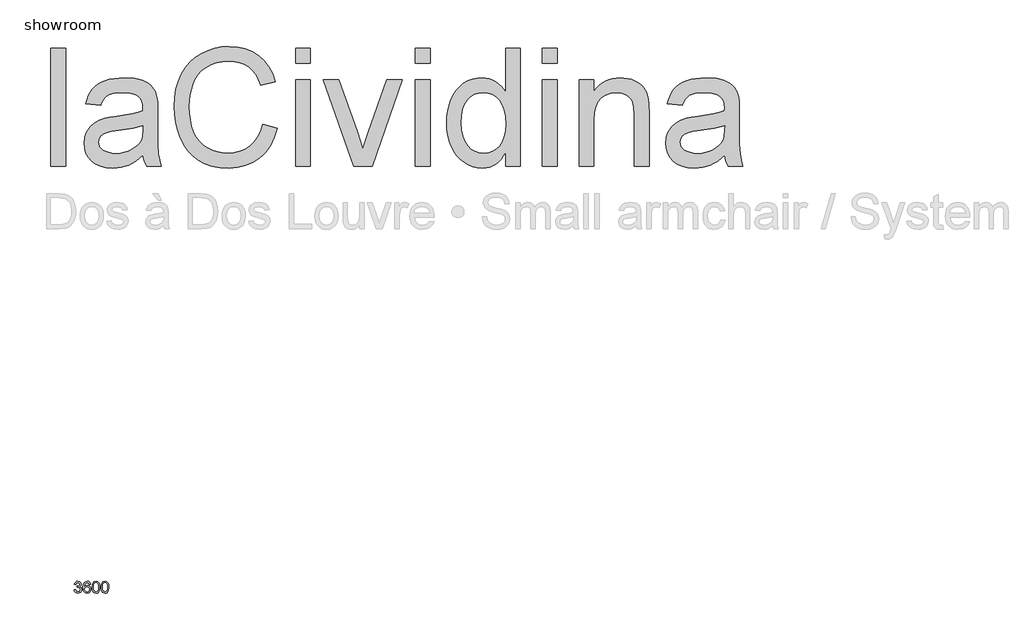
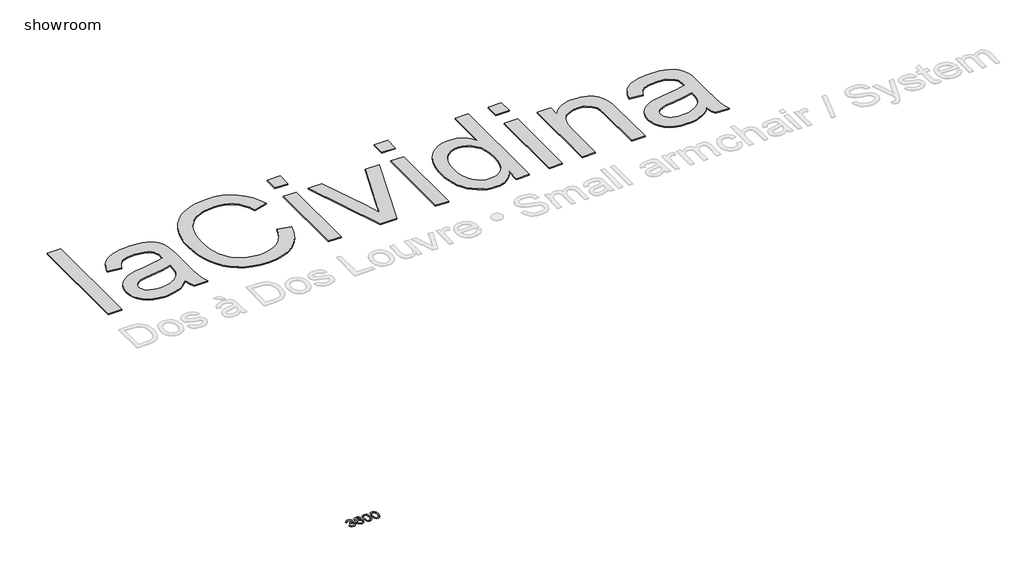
# One storey, part 1 of 2: 2 proxies.
"""IFC4 building model written with IfcOpenShell, lengths in millimetres."""

from ifc_helpers import new_model, si_unit, origin, origin_with_axes, place, context, project, spatial, polyline, outline, extrude, element, save

model = new_model("IFC4")

# Units and contexts
model_context = context("Model", 3, world=origin())
ifc_project = project(units=[si_unit("LENGTHUNIT", "METRE", prefix="MILLI")], contexts=[model_context])

# Site, building, storey
site = spatial("IfcSite", under=ifc_project)
building = spatial("IfcBuilding", under=site)
storey = spatial("IfcBuildingStorey", under=building, Name="showroom", Elevation=0.0)

# Proxies
placement = place(None, origin())
element("IfcBuildingElementProxy", 1, Name="1000mm Arial", ObjectType="1000mm Arial", at=placement, inside=storey, context=model_context, shape_type="SweptSolid", body=[
    extrude(outline(polyline([(-1952.8965336, 4695.1020807), (-1952.8965336, 5699.6651822), (-1827.326146, 5699.6651822), (-1827.326146, 4695.1020807), (-1952.8965336, 4695.1020807)])), origin_with_axes(), (0.0, 0.0, 1.0), 10.0),
    extrude(outline(polyline([(-1168.0816106, 4789.2798714), (-1197.8570596, 4761.3361682), (-1228.0770326, 4737.8377058), (-1258.7415298, 4718.7844841), (-1289.850551, 4704.1765032), (-1321.7566499, 4693.3393128), (-1354.81238, 4685.5984625), (-1389.0177413, 4680.9539523), (-1424.3727339, 4679.4057822), (-1480.283133, 4683.1305874), (-1529.311073, 4694.305003), (-1571.4565541, 4712.929029), (-1606.7195762, 4739.0026654), (-1634.5636447, 4770.8704433), (-1654.4522651, 4806.8768935), (-1666.3854373, 4847.0220163), (-1670.3631613, 4891.3058114), (-1664.3544221, 4943.3611138), (-1656.843498, 4967.5953402), (-1646.3282043, 4990.6339501), (-1618.5224569, 5031.1009696), (-1583.1751285, 5062.7388212), (-1541.6351199, 5086.6511509), (-1495.2513316, 5103.9416046), (-1450.0631599, 5113.5678502), (-1386.6035157, 5122.8262137), (-1258.2126994, 5142.6918415), (-1208.6406006, 5153.9122423), (-1168.8173746, 5165.9910345), (-1168.0816106, 5193.9500661), (-1170.2429173, 5224.3923012), (-1176.7268375, 5249.9907567), (-1187.5333711, 5270.7454326), (-1202.6625181, 5286.6563289), (-1228.8127966, 5302.5365684), (-1260.665246, 5313.8795966), (-1298.2198664, 5320.6854135), (-1341.4766577, 5322.9540191), (-1381.6984225, 5321.4441701), (-1416.27933, 5316.914623), (-1445.2193803, 5309.3653779), (-1468.5185733, 5298.7964348), (-1487.6637655, 5284.3800591), (-1504.1418132, 5265.2885164), (-1517.9527164, 5241.5218066), (-1529.0964752, 5213.0799299), (-1654.6668629, 5228.7762283), (-1645.1095952, 5264.9512912), (-1632.8698547, 5297.4475341), (-1617.9476412, 5326.2649571), (-1600.3429549, 5351.4035601), (-1579.2970391, 5373.3691809), (-1554.0511372, 5392.6676572), (-1524.6052492, 5409.2989891), (-1490.959375, 5423.2631765), (-1453.7956293, 5434.3149647), (-1413.7961265, 5442.2090992), (-1370.9608667, 5446.9455799), (-1325.2898499, 5448.5244068), (-1240.4010795, 5442.9448632), (-1204.5555776, 5435.9704337), (-1173.1093312, 5426.2062324), (-1122.3722727, 5401.0369726), (-1102.8208775, 5386.3140286), (-1087.1475717, 5370.1655418), (-1063.787065, 5331.9977848), (-1048.6425895, 5284.9395463), (-1044.0440646, 5241.5294708), (-1042.5112229, 5175.065457), (-1042.5112229, 5018.8382364), (-1040.9170676, 4882.752555), (-1036.1346017, 4800.6842133), (-1026.6922971, 4746.7588442), (-1011.118626, 4695.1020807), (-1136.6890137, 4695.1020807), (-1156.7998961, 4738.7574108), (-1168.0816106, 4789.2798714)]), holes=[polyline([(-1168.0816106, 5040.4206468), (-1252.4492148, 5019.5126868), (-1370.6619626, 5001.9156646), (-1435.8077326, 4992.2894191), (-1478.6966419, 4981.5595276), (-1506.8089577, 4967.6413254), (-1527.6249472, 4948.450148), (-1540.500817, 4925.4575233), (-1544.7927737, 4900.1349793), (-1542.4551901, 4880.6219052), (-1535.4424396, 4862.7949568), (-1523.7545221, 4846.6541343), (-1507.3914375, 4832.1994375), (-1486.50647, 4820.2892579), (-1461.2529039, 4811.7819868), (-1431.6307391, 4806.6776241), (-1397.6399756, 4804.9761699), (-1362.9364407, 4806.8539009), (-1330.1949431, 4812.487094), (-1299.4154829, 4821.8757491), (-1270.5980599, 4835.0198662), (-1244.6010656, 4850.8311278), (-1222.2828912, 4868.2212162), (-1203.6435368, 4887.1901316), (-1188.6830023, 4907.7378739), (-1179.9917902, 4926.1319736), (-1173.7837815, 4948.450148), (-1168.8173746, 5004.8587206), (-1168.0816106, 5040.4206468)])]), origin_with_axes(), (0.0, 0.0, 1.0), 10.0),
    extrude(outline(polyline([(-147.8222106, 5052.1928707), (-22.2518229, 5019.8192551), (-47.099186, 4941.7286374), (-80.1932372, 4873.4941915), (-121.5339764, 4815.1159174), (-145.296854, 4789.6228448), (-171.1214037, 4766.5938151), (-227.8365446, 4728.4490507), (-290.5604248, 4701.2027904), (-359.2930442, 4684.8550343), (-434.0344029, 4679.4057822), (-510.6075073, 4683.5291262), (-579.6850161, 4695.8991583), (-641.2669293, 4716.5158785), (-695.3532468, 4745.3792867), (-742.6873968, 4782.0601873), (-784.0128076, 4826.1293846), (-819.3294792, 4877.5868787), (-848.6374114, 4936.4326695), (-871.6530288, 5000.1222399), (-888.0927554, 5066.1110728), (-897.9565914, 5134.3991682), (-901.2445368, 5204.986526), (-897.5273958, 5280.7242317), (-886.3759728, 5351.4648737), (-867.7902678, 5417.208452), (-841.7702809, 5477.9549664), (-808.8984918, 5532.7004058), (-769.7573803, 5580.4407589), (-724.3469465, 5621.1760257), (-672.6671904, 5654.9062061), (-616.4732157, 5681.3553887), (-557.5201259, 5700.247662), (-495.8079212, 5711.583026), (-431.3366016, 5715.3614806), (-359.5153062, 5710.4717158), (-293.6567649, 5695.8024212), (-233.7609776, 5671.353597), (-179.8279442, 5637.125243), (-132.746713, 5594.0217359), (-93.4063322, 5542.9474522), (-61.8068016, 5483.902392), (-37.9481214, 5416.8865552), (-163.5185091, 5386.9654863), (-183.2921663, 5436.3459799), (-207.0512119, 5478.5374462), (-234.7956457, 5513.5398852), (-266.5254677, 5541.3532969), (-302.4246191, 5562.5448327), (-342.6770407, 5577.6816439), (-387.2827327, 5586.7637307), (-436.2416949, 5589.7910929), (-492.5736254, 5586.4341697), (-544.0924331, 5576.3634001), (-590.7981181, 5559.5787841), (-632.6906803, 5536.0803216), (-669.2412893, 5506.9256735), (-699.9211149, 5473.1725005), (-724.7301569, 5434.8208025), (-743.6684155, 5391.8705795), (-757.6709239, 5346.2685406), (-767.6727157, 5299.9613944), (-773.6737907, 5252.9491411), (-775.6741491, 5205.2317807), (-773.3059087, 5145.2670154), (-766.2011877, 5089.2263248), (-754.359986, 5037.1097089), (-737.7823036, 4988.9171675), (-716.1998932, 4945.6067268), (-689.3445075, 4908.1364127), (-657.2161466, 4876.5062253), (-619.8148104, 4850.7161646), (-578.9569164, 4830.7049169), (-536.4588817, 4816.4111686), (-492.3207065, 4807.8349196), (-446.5423907, 4804.9761699), (-391.9502355, 4808.8695877), (-341.7266789, 4820.549841), (-295.8717211, 4840.0169299), (-254.3853619, 4867.2708544), (-218.2486201, 4902.1889871), (-188.4425143, 4944.6487007), (-164.9670445, 4994.6499952), (-147.8222106, 5052.1928707)])), origin_with_axes(), (0.0, 0.0, 1.0), 10.0),
    extrude(outline(polyline([(134.7111617, 4695.1020807), (134.7111617, 5432.8281083), (260.2815493, 5432.8281083), (260.2815493, 4695.1020807), (134.7111617, 4695.1020807)])), origin_with_axes(), (0.0, 0.0, 1.0), 10.0),
    extrude(outline(polyline([(134.7111617, 5574.0947945), (134.7111617, 5699.6651822), (260.2815493, 5699.6651822), (260.2815493, 5574.0947945), (134.7111617, 5574.0947945)])), origin_with_axes(), (0.0, 0.0, 1.0), 10.0),
    extrude(outline(polyline([(629.6350725, 4695.1020807), (370.1556386, 5432.8281083), (503.0836662, 5432.8281083), (660.2919054, 4990.8792048), (707.6260555, 4842.2548787), (753.9791869, 4982.5405462), (912.1684448, 5432.8281083), (1045.0964724, 5432.8281083), (788.8053491, 4695.1020807), (629.6350725, 4695.1020807)])), origin_with_axes(), (0.0, 0.0, 1.0), 10.0),
    extrude(outline(polyline([(1154.9705616, 4695.1020807), (1154.9705616, 5432.8281083), (1280.5409493, 5432.8281083), (1280.5409493, 4695.1020807), (1154.9705616, 4695.1020807)])), origin_with_axes(), (0.0, 0.0, 1.0), 10.0),
    extrude(outline(polyline([(1154.9705616, 5574.0947945), (1154.9705616, 5699.6651822), (1280.5409493, 5699.6651822), (1280.5409493, 5574.0947945), (1154.9705616, 5574.0947945)])), origin_with_axes(), (0.0, 0.0, 1.0), 10.0),
    extrude(outline(polyline([(1924.0891862, 4695.1020807), (1924.0891862, 4813.5600831), (1906.2967268, 4782.1176688), (1886.5192374, 4754.8675765), (1864.7567182, 4731.809806), (1841.009169, 4712.9443574), (1815.2765898, 4698.2712308), (1787.5589807, 4687.790426), (1757.8563417, 4681.5019432), (1726.1686728, 4679.4057822), (1684.7206347, 4682.4408087), (1644.9893792, 4691.5458881), (1606.9749064, 4706.7210204), (1570.6772162, 4727.9662056), (1537.2306114, 4754.6453144), (1507.769395, 4786.1222176), (1482.2935668, 4822.3969152), (1460.8031269, 4863.4694071), (1443.7425994, 4908.5579442), (1431.5565083, 4956.8807771), (1424.2448537, 5008.4379059), (1421.8076355, 5063.2293305), (1424.0532485, 5117.0167439), (1430.7900875, 5168.2596401), (1442.0181526, 5216.9580192), (1457.7374436, 5263.1118812), (1477.9402965, 5305.3723254), (1502.6190471, 5342.3904512), (1531.7736952, 5374.1662585), (1565.4042409, 5400.6997474), (1602.322732, 5421.6230359), (1641.3412161, 5436.568242), (1682.4596932, 5445.5353656), (1725.6781635, 5448.5244068), (1757.2853582, 5446.3860927), (1787.1144567, 5439.9711504), (1815.1654588, 5429.2795799), (1841.4383646, 5414.3113812), (1865.6419342, 5395.9249457), (1887.4849277, 5374.9786646), (1906.967345, 5351.4725379), (1924.0891862, 5325.4065657), (1924.0891862, 5699.6651822), (2049.6595739, 5699.6651822), (2049.6595739, 4695.1020807), (1924.0891862, 4695.1020807)]), holes=[polyline([(1547.3780231, 5063.7198398), (1550.9188873, 5002.8277054), (1561.54148, 4950.1362738), (1579.245801, 4905.645545), (1604.0318504, 4869.3555191), (1633.6310226, 4841.1895538), (1665.7747119, 4821.0710072), (1700.4629184, 4808.9998792), (1737.695642, 4804.9761699), (1775.1046424, 4808.8159382), (1809.5859152, 4820.3352432), (1841.1394605, 4839.5340848), (1869.7652782, 4866.4124631), (1893.531988, 4901.1849758), (1910.5082092, 4944.0662209), (1920.693942, 4995.0561983), (1924.0891862, 5054.154908), (1920.6326283, 5118.9481244), (1910.2629545, 5174.5136341), (1892.980165, 5220.851437), (1868.7842596, 5257.9615333), (1839.5299768, 5286.3957458), (1807.0720549, 5306.7058977), (1771.410494, 5318.8919887), (1732.545294, 5322.9540191), (1694.5768065, 5319.0529371), (1659.8886, 5307.3496911), (1628.4806747, 5287.8442812), (1600.3530304, 5260.5367073), (1577.1764647, 5224.8291611), (1560.621775, 5180.1238345), (1550.6889611, 5126.4207274), (1547.3780231, 5063.7198398)])]), origin_with_axes(), (0.0, 0.0, 1.0), 10.0),
    extrude(outline(polyline([(2238.0151554, 4695.1020807), (2238.0151554, 5432.8281083), (2363.5855431, 5432.8281083), (2363.5855431, 4695.1020807), (2238.0151554, 4695.1020807)])), origin_with_axes(), (0.0, 0.0, 1.0), 10.0),
    extrude(outline(polyline([(2238.0151554, 5574.0947945), (2238.0151554, 5699.6651822), (2363.5855431, 5699.6651822), (2363.5855431, 5574.0947945), (2238.0151554, 5574.0947945)])), origin_with_axes(), (0.0, 0.0, 1.0), 10.0),
    extrude(outline(polyline([(2551.9411246, 4695.1020807), (2551.9411246, 5432.8281083), (2677.5115123, 5432.8281083), (2677.5115123, 5329.8211497), (2698.2278672, 5357.6422256), (2721.1361856, 5381.7538247), (2746.2364675, 5402.155947), (2773.5287131, 5418.8485925), (2803.0129221, 5431.8317613), (2834.6890948, 5441.1054532), (2868.5572309, 5446.6696684), (2904.6173307, 5448.5244068), (2966.5134764, 5442.5463244), (2995.5071761, 5435.0737213), (3023.1979605, 5424.6120771), (3048.5358329, 5411.7208789), (3070.4707968, 5396.9596138), (3089.0028523, 5380.3282819), (3104.1319994, 5361.8268833), (3126.9713399, 5319.305856), (3141.7785902, 5269.4885025), (3146.7449972, 5221.8477841), (3148.4004661, 5148.0874441), (3148.4004661, 4695.1020807), (3022.8300785, 4695.1020807), (3022.8300785, 5131.1648723), (3019.2125722, 5196.0960444), (3008.3600533, 5242.2652348), (2999.7378191, 5259.7319654), (2988.3411414, 5275.3439576), (2974.1700204, 5289.1012113), (2957.224456, 5301.0037267), (2917.3399163, 5317.466446), (2871.0174418, 5322.9540191), (2832.8880058, 5319.8730074), (2797.4716996, 5310.6299723), (2764.7685231, 5295.2249137), (2734.7784762, 5273.6578318), (2709.7241795, 5243.4761797), (2691.8282533, 5202.227411), (2681.0906976, 5149.9115256), (2677.5115123, 5086.5285235), (2677.5115123, 4695.1020807), (2551.9411246, 4695.1020807)])), origin_with_axes(), (0.0, 0.0, 1.0), 10.0),
    extrude(outline(polyline([(3791.948703, 4789.2798714), (3762.1732541, 4761.3361682), (3731.953281, 4737.8377058), (3701.2887839, 4718.7844841), (3670.1797626, 4704.1765032), (3638.2736638, 4693.3393128), (3605.2179337, 4685.5984625), (3571.0125723, 4680.9539523), (3535.6575797, 4679.4057822), (3479.7471807, 4683.1305874), (3430.7192406, 4694.305003), (3388.5737595, 4712.929029), (3353.3107375, 4739.0026654), (3325.466669, 4770.8704433), (3305.5780486, 4806.8768935), (3293.6448764, 4847.0220163), (3289.6671523, 4891.3058114), (3295.6758915, 4943.3611138), (3303.1868156, 4967.5953402), (3313.7021093, 4990.6339501), (3341.5078568, 5031.1009696), (3376.8551852, 5062.7388212), (3418.3951938, 5086.6511509), (3464.778982, 5103.9416046), (3509.9671537, 5113.5678502), (3573.4267979, 5122.8262137), (3701.8176142, 5142.6918415), (3751.3897131, 5153.9122423), (3791.2129391, 5165.9910345), (3791.948703, 5193.9500661), (3789.7873963, 5224.3923012), (3783.3034762, 5249.9907567), (3772.4969425, 5270.7454326), (3757.3677955, 5286.6563289), (3731.217517, 5302.5365684), (3699.3650676, 5313.8795966), (3661.8104472, 5320.6854135), (3618.553656, 5322.9540191), (3578.3318912, 5321.4441701), (3543.7509836, 5316.914623), (3514.8109333, 5309.3653779), (3491.5117403, 5298.7964348), (3472.3665481, 5284.3800591), (3455.8885004, 5265.2885164), (3442.0775972, 5241.5218066), (3430.9338384, 5213.0799299), (3305.3634508, 5228.7762283), (3314.9207184, 5264.9512912), (3327.160459, 5297.4475341), (3342.0826724, 5326.2649571), (3359.6873587, 5351.4035601), (3380.7332745, 5373.3691809), (3405.9791764, 5392.6676572), (3435.4250645, 5409.2989891), (3469.0709386, 5423.2631765), (3506.2346843, 5434.3149647), (3546.2341871, 5442.2090992), (3589.0694469, 5446.9455799), (3634.7404638, 5448.5244068), (3719.6292342, 5442.9448632), (3755.4747361, 5435.9704337), (3786.9209824, 5426.2062324), (3837.6580409, 5401.0369726), (3857.2094361, 5386.3140286), (3872.882742, 5370.1655418), (3896.2432487, 5331.9977848), (3911.3877241, 5284.9395463), (3915.9862491, 5241.5294708), (3917.5190907, 5175.065457), (3917.5190907, 5018.8382364), (3919.113246, 4882.752555), (3923.895712, 4800.6842133), (3933.3380165, 4746.7588442), (3948.9116877, 4695.1020807), (3823.3413, 4695.1020807), (3803.2304176, 4738.7574108), (3791.948703, 4789.2798714)]), holes=[polyline([(3791.948703, 5040.4206468), (3707.5810988, 5019.5126868), (3589.368351, 5001.9156646), (3524.2225811, 4992.2894191), (3481.3336718, 4981.5595276), (3453.221356, 4967.6413254), (3432.4053664, 4948.450148), (3419.5294966, 4925.4575233), (3415.23754, 4900.1349793), (3417.5751235, 4880.6219052), (3424.587874, 4862.7949568), (3436.2757916, 4846.6541343), (3452.6388762, 4832.1994375), (3473.5238436, 4820.2892579), (3498.7774097, 4811.7819868), (3528.3995745, 4806.6776241), (3562.3903381, 4804.9761699), (3597.0938729, 4806.8539009), (3629.8353705, 4812.487094), (3660.6148308, 4821.8757491), (3689.4322537, 4835.0198662), (3715.429248, 4850.8311278), (3737.7474224, 4868.2212162), (3756.3867768, 4887.1901316), (3771.3473113, 4907.7378739), (3780.0385234, 4926.1319736), (3786.2465321, 4948.450148), (3791.2129391, 5004.8587206), (3791.948703, 5040.4206468)])]), origin_with_axes(), (0.0, 0.0, 1.0), 10.0),
])
element("IfcBuildingElementProxy", 2, Name="100mm Arial", ObjectType="100mm Arial", at=placement, inside=storey, context=model_context, shape_type="SweptSolid", body=[
    extrude(outline(polyline([(-1755.1998563, 1081.7857881), (-1742.6428175, 1083.3554179), (-1735.7143732, 1070.1361915), (-1722.7526643, 1066.0894896), (-1714.1442256, 1067.4813098), (-1707.4978242, 1071.6567705), (-1701.8324415, 1085.4400825), (-1707.4487733, 1098.426317), (-1721.7225947, 1103.5644022), (-1730.5272371, 1102.1909761), (-1729.1292855, 1114.7480148), (-1727.1181973, 1114.600862), (-1712.8689013, 1118.2061056), (-1708.1232236, 1122.7801051), (-1706.541331, 1129.2916164), (-1711.1275932, 1139.1140656), (-1722.948868, 1143.0013521), (-1734.9172956, 1139.0772774), (-1741.0731876, 1127.3050536), (-1753.6302264, 1128.8746834), (-1749.9330124, 1140.1502666), (-1743.354056, 1148.5686329), (-1734.3532099, 1153.8109513), (-1723.3903264, 1155.5583908), (-1708.2458509, 1152.1125628), (-1697.6508495, 1142.6947837), (-1693.9842923, 1130.0273804), (-1697.4669085, 1118.4513602), (-1707.7676043, 1110.1372272), (-1694.0823941, 1101.5533139), (-1689.2754027, 1085.2193533), (-1691.6788984, 1072.9811456), (-1698.8893855, 1062.7540262), (-1709.7725612, 1055.8378447), (-1723.1941227, 1053.5324508), (-1735.3342285, 1055.5006195), (-1745.2179915, 1061.4051255), (-1752.0912534, 1070.4366285), (-1755.1998563, 1081.7857881)])), origin_with_axes(), (0.0, 0.0, 1.0), 2.0),
    extrude(outline(polyline([(-1613.9331701, 1128.8746834), (-1626.4902089, 1127.3050536), (-1631.2481493, 1137.7774277), (-1643.8297136, 1143.0013521), (-1655.160479, 1139.9601942), (-1663.7321295, 1128.5435896), (-1667.3005849, 1106.1641016), (-1656.2273368, 1116.1827546), (-1642.5053384, 1119.4569044), (-1630.9047928, 1117.2189556), (-1621.1681827, 1110.5051091), (-1614.5647009, 1100.2473328), (-1612.3635403, 1087.3775944), (-1616.5083441, 1070.0503524), (-1627.9126859, 1057.7876192), (-1644.3692738, 1053.5324508), (-1658.6155041, 1056.3528795), (-1669.961598, 1064.8141653), (-1677.3836172, 1079.7501743), (-1679.8576236, 1101.9947723), (-1677.1107714, 1127.0046166), (-1668.8702147, 1144.104998), (-1657.619157, 1152.6950426), (-1643.0448987, 1155.5583908), (-1632.0268329, 1153.7864259), (-1623.2037964, 1148.470531), (-1617.0233789, 1140.0276393), (-1613.9331701, 1128.8746834)]), holes=[polyline([(-1667.3005849, 1087.5737981), (-1664.3943171, 1076.6967538), (-1656.6687952, 1068.7995536), (-1645.3502925, 1066.0894896), (-1637.0637506, 1067.4935725), (-1630.5491736, 1071.7058214), (-1626.3277277, 1078.3276973), (-1624.920579, 1086.9606615), (-1626.3093336, 1095.2472034), (-1630.4755972, 1101.5655767), (-1637.1005388, 1105.5662934), (-1645.8653273, 1106.8998656), (-1661.0588537, 1101.5655767), (-1665.7401521, 1095.4004876), (-1667.3005849, 1087.5737981)])]), origin_with_axes(), (0.0, 0.0, 1.0), 2.0),
    extrude(outline(polyline([(-1601.3761313, 1104.5208954), (-1597.6850487, 1133.4241574), (-1586.7221652, 1150.0892118), (-1568.4139046, 1155.5583908), (-1553.7476757, 1152.3210293), (-1543.6186581, 1142.9890893), (-1537.7325462, 1128.1266567), (-1535.4516778, 1104.5208954), (-1539.1059723, 1075.7402606), (-1550.0320675, 1059.038418), (-1558.2634272, 1054.9089426), (-1568.4139046, 1053.5324508), (-1581.4614527, 1055.9236838), (-1591.3697411, 1063.0973827), (-1598.8745338, 1080.0873995), (-1601.3761313, 1104.5208954)]), holes=[polyline([(-1588.8190926, 1104.5454208), (-1587.3475646, 1084.7932234), (-1582.9329806, 1073.3612904), (-1576.3601557, 1067.9074398), (-1568.4139046, 1066.0894896), (-1560.4676535, 1067.9135712), (-1553.8948285, 1073.3858158), (-1549.4802446, 1084.8238802), (-1548.0087166, 1104.5454208), (-1549.4311936, 1123.8530942), (-1553.6986248, 1135.373932), (-1560.259187, 1141.094497), (-1568.5610574, 1143.0013521), (-1576.4214693, 1141.3213576), (-1582.7367769, 1136.2813743), (-1587.2985137, 1124.0431666), (-1588.8190926, 1104.5454208)])]), origin_with_axes(), (0.0, 0.0, 1.0), 2.0),
    extrude(outline(polyline([(-1524.4642689, 1104.5208954), (-1520.7731862, 1133.4241574), (-1509.8103027, 1150.0892118), (-1491.5020421, 1155.5583908), (-1476.8358132, 1152.3210293), (-1466.7067956, 1142.9890893), (-1460.8206837, 1128.1266567), (-1458.5398153, 1104.5208954), (-1462.1941098, 1075.7402606), (-1473.1202051, 1059.038418), (-1481.3515647, 1054.9089426), (-1491.5020421, 1053.5324508), (-1504.5495902, 1055.9236838), (-1514.4578786, 1063.0973827), (-1521.9626713, 1080.0873995), (-1524.4642689, 1104.5208954)]), holes=[polyline([(-1511.9072301, 1104.5454208), (-1510.4357021, 1084.7932234), (-1506.0211182, 1073.3612904), (-1499.4482932, 1067.9074398), (-1491.5020421, 1066.0894896), (-1483.555791, 1067.9135712), (-1476.982966, 1073.3858158), (-1472.5683821, 1084.8238802), (-1471.0968541, 1104.5454208), (-1472.5193312, 1123.8530942), (-1476.7867623, 1135.373932), (-1483.3473246, 1141.094497), (-1491.6491949, 1143.0013521), (-1499.5096069, 1141.3213576), (-1505.8249145, 1136.2813743), (-1510.3866512, 1124.0431666), (-1511.9072301, 1104.5454208)])]), origin_with_axes(), (0.0, 0.0, 1.0), 2.0),
])

save(model, "model.ifc")
